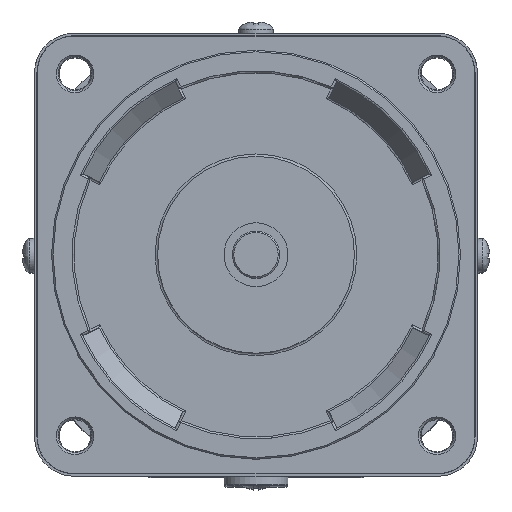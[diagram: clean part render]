
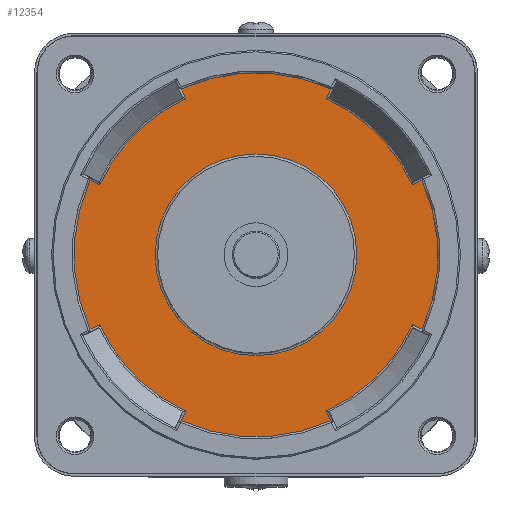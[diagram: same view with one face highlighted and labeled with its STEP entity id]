
A CAD part, top view. The second image highlights one B-rep face of the part: STEP entity #12354.
In plain terms, the highlighted planar face has unit normal (0, 0, 1).
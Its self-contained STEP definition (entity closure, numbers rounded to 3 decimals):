
#94 = ORIENTED_EDGE ( 'NONE', *, *, #12073, .T. ) ;
#155 = VERTEX_POINT ( 'NONE', #7740 ) ;
#420 = ORIENTED_EDGE ( 'NONE', *, *, #2047, .T. ) ;
#493 = EDGE_CURVE ( 'NONE', #2703, #6270, #4771, .T. ) ;
#523 = CARTESIAN_POINT ( 'NONE',  ( 31.725, -14.242, -2. ) ) ;
#566 = VERTEX_POINT ( 'NONE', #8711 ) ;
#876 = EDGE_CURVE ( 'NONE', #6270, #8390, #4746, .T. ) ;
#906 = LINE ( 'NONE', #5708, #14526 ) ;
#970 = CARTESIAN_POINT ( 'NONE',  ( -0.453, 0.211, -2. ) ) ;
#1013 = DIRECTION ( 'NONE',  ( -0.423, 0.906, 0. ) ) ;
#1144 = VERTEX_POINT ( 'NONE', #7782 ) ;
#1166 = VERTEX_POINT ( 'NONE', #10351 ) ;
#1263 = DIRECTION ( 'NONE',  ( 0., 0., 1. ) ) ;
#1277 = AXIS2_PLACEMENT_3D ( 'NONE', #13055, #3937, #11915 ) ;
#1342 = ORIENTED_EDGE ( 'NONE', *, *, #876, .T. ) ;
#1362 = CARTESIAN_POINT ( 'NONE',  ( 0.453, -0.211, -2. ) ) ;
#1589 = CARTESIAN_POINT ( 'NONE',  ( 15.177, -33.73, -2. ) ) ;
#1602 = EDGE_CURVE ( 'NONE', #1144, #6790, #9093, .T. ) ;
#1743 = ORIENTED_EDGE ( 'NONE', *, *, #4513, .T. ) ;
#1824 = AXIS2_PLACEMENT_3D ( 'NONE', #3479, #11231, #9125 ) ;
#1845 = VERTEX_POINT ( 'NONE', #8396 ) ;
#1898 = EDGE_CURVE ( 'NONE', #8390, #11365, #6914, .T. ) ;
#2047 = EDGE_CURVE ( 'NONE', #9904, #1845, #9580, .T. ) ;
#2255 = DIRECTION ( 'NONE',  ( 0.906, 0.423, 0. ) ) ;
#2403 = FACE_BOUND ( 'NONE', #6587, .T. ) ;
#2509 = DIRECTION ( 'NONE',  ( 0., 0., -1. ) ) ;
#2639 = CARTESIAN_POINT ( 'NONE',  ( 14.242, -31.725, -2. ) ) ;
#2703 = VERTEX_POINT ( 'NONE', #12161 ) ;
#2756 = AXIS2_PLACEMENT_3D ( 'NONE', #7173, #2509, #9512 ) ;
#2995 = ORIENTED_EDGE ( 'NONE', *, *, #493, .T. ) ;
#3086 = DIRECTION ( 'NONE',  ( 0., 0., 1. ) ) ;
#3090 = LINE ( 'NONE', #970, #7306 ) ;
#3479 = CARTESIAN_POINT ( 'NONE',  ( 0., 0., -2. ) ) ;
#3489 = VERTEX_POINT ( 'NONE', #523 ) ;
#3665 = DIRECTION ( 'NONE',  ( 1., 0., 0. ) ) ;
#3937 = DIRECTION ( 'NONE',  ( 0., 0., 1. ) ) ;
#4302 = ORIENTED_EDGE ( 'NONE', *, *, #1898, .T. ) ;
#4513 = EDGE_CURVE ( 'NONE', #14709, #2703, #906, .T. ) ;
#4697 = CIRCLE ( 'NONE', #1824, 34.775 ) ;
#4746 = LINE ( 'NONE', #1362, #10082 ) ;
#4749 = CARTESIAN_POINT ( 'NONE',  ( -14.242, 31.725, -2. ) ) ;
#4771 = CIRCLE ( 'NONE', #6458, 34.775 ) ;
#4806 = DIRECTION ( 'NONE',  ( 1., 0., 0. ) ) ;
#4906 = ORIENTED_EDGE ( 'NONE', *, *, #7386, .T. ) ;
#5129 = DIRECTION ( 'NONE',  ( 1., 0., 0. ) ) ;
#5222 = EDGE_CURVE ( 'NONE', #5890, #1144, #7084, .T. ) ;
#5226 = CIRCLE ( 'NONE', #7870, 36.987 ) ;
#5312 = DIRECTION ( 'NONE',  ( 0., 0., 1. ) ) ;
#5425 = ORIENTED_EDGE ( 'NONE', *, *, #9886, .T. ) ;
#5708 = CARTESIAN_POINT ( 'NONE',  ( -31.932, -14.338, -2. ) ) ;
#5720 = ORIENTED_EDGE ( 'NONE', *, *, #8201, .T. ) ;
#5851 = DIRECTION ( 'NONE',  ( 1., 0., 0. ) ) ;
#5890 = VERTEX_POINT ( 'NONE', #11466 ) ;
#6088 = VERTEX_POINT ( 'NONE', #2639 ) ;
#6249 = EDGE_CURVE ( 'NONE', #6790, #8800, #3090, .T. ) ;
#6270 = VERTEX_POINT ( 'NONE', #9317 ) ;
#6438 = DIRECTION ( 'NONE',  ( 1., 0., 0. ) ) ;
#6458 = AXIS2_PLACEMENT_3D ( 'NONE', #7039, #11638, #3665 ) ;
#6536 = DIRECTION ( 'NONE',  ( 1., 0., 0. ) ) ;
#6587 = EDGE_LOOP ( 'NONE', ( #5720 ) ) ;
#6790 = VERTEX_POINT ( 'NONE', #10649 ) ;
#6856 = AXIS2_PLACEMENT_3D ( 'NONE', #8417, #13023, #4806 ) ;
#6879 = VECTOR ( 'NONE', #9640, 1000. ) ;
#6914 = CIRCLE ( 'NONE', #9836, 36.987 ) ;
#6953 = CARTESIAN_POINT ( 'NONE',  ( 0., 0., -2. ) ) ;
#6974 = ORIENTED_EDGE ( 'NONE', *, *, #10753, .T. ) ;
#6977 = PLANE ( 'NONE',  #13136 ) ;
#7039 = CARTESIAN_POINT ( 'NONE',  ( 0., 0., -2. ) ) ;
#7084 = LINE ( 'NONE', #11603, #10169 ) ;
#7157 = DIRECTION ( 'NONE',  ( 0., 0., 1. ) ) ;
#7173 = CARTESIAN_POINT ( 'NONE',  ( 0., 0., -2. ) ) ;
#7295 = VECTOR ( 'NONE', #1013, 1000. ) ;
#7301 = LINE ( 'NONE', #9720, #6879 ) ;
#7306 = VECTOR ( 'NONE', #10088, 1000. ) ;
#7386 = EDGE_CURVE ( 'NONE', #566, #8511, #14809, .T. ) ;
#7740 = CARTESIAN_POINT ( 'NONE',  ( 33.73, -15.177, -2. ) ) ;
#7782 = CARTESIAN_POINT ( 'NONE',  ( 31.725, 14.242, -2. ) ) ;
#7870 = AXIS2_PLACEMENT_3D ( 'NONE', #12189, #14713, #11060 ) ;
#7990 = CARTESIAN_POINT ( 'NONE',  ( -14.338, 31.932, -2. ) ) ;
#8201 = EDGE_CURVE ( 'NONE', #1166, #1166, #8769, .T. ) ;
#8252 = CIRCLE ( 'NONE', #1277, 34.775 ) ;
#8390 = VERTEX_POINT ( 'NONE', #14813 ) ;
#8396 = CARTESIAN_POINT ( 'NONE',  ( -33.73, 15.177, -2. ) ) ;
#8417 = CARTESIAN_POINT ( 'NONE',  ( 0., 0., -2. ) ) ;
#8511 = VERTEX_POINT ( 'NONE', #4749 ) ;
#8711 = CARTESIAN_POINT ( 'NONE',  ( -15.177, 33.73, -2. ) ) ;
#8769 = CIRCLE ( 'NONE', #2756, 20.5 ) ;
#8800 = VERTEX_POINT ( 'NONE', #9618 ) ;
#8951 = CARTESIAN_POINT ( 'NONE',  ( -31.725, 14.242, -2. ) ) ;
#9093 = CIRCLE ( 'NONE', #12217, 34.775 ) ;
#9119 = DIRECTION ( 'NONE',  ( 0.423, -0.906, 0. ) ) ;
#9125 = DIRECTION ( 'NONE',  ( 1., 0., 0. ) ) ;
#9168 = ORIENTED_EDGE ( 'NONE', *, *, #5222, .T. ) ;
#9317 = CARTESIAN_POINT ( 'NONE',  ( -14.242, -31.725, -2. ) ) ;
#9358 = DIRECTION ( 'NONE',  ( -0.906, -0.423, 0. ) ) ;
#9512 = DIRECTION ( 'NONE',  ( 1., 0., 0. ) ) ;
#9580 = LINE ( 'NONE', #11077, #14675 ) ;
#9618 = CARTESIAN_POINT ( 'NONE',  ( 15.177, 33.73, -2. ) ) ;
#9640 = DIRECTION ( 'NONE',  ( 0.906, -0.423, 0. ) ) ;
#9720 = CARTESIAN_POINT ( 'NONE',  ( 0.211, 0.453, -2. ) ) ;
#9836 = AXIS2_PLACEMENT_3D ( 'NONE', #6953, #3086, #6536 ) ;
#9886 = EDGE_CURVE ( 'NONE', #6088, #3489, #8252, .T. ) ;
#9904 = VERTEX_POINT ( 'NONE', #8951 ) ;
#10003 = CIRCLE ( 'NONE', #6856, 36.987 ) ;
#10082 = VECTOR ( 'NONE', #12580, 1000. ) ;
#10088 = DIRECTION ( 'NONE',  ( 0.423, 0.906, 0. ) ) ;
#10169 = VECTOR ( 'NONE', #9358, 1000. ) ;
#10337 = EDGE_LOOP ( 'NONE', ( #11547, #14786, #9168, #13622, #12786, #13955, #4906, #94, #420, #11142, #1743, #2995, #1342, #4302, #6974, #5425 ) ) ;
#10351 = CARTESIAN_POINT ( 'NONE',  ( 20.5, 0., -2. ) ) ;
#10441 = CARTESIAN_POINT ( 'NONE',  ( -33.73, -15.177, -2. ) ) ;
#10456 = CARTESIAN_POINT ( 'NONE',  ( 0., 0., -2. ) ) ;
#10649 = CARTESIAN_POINT ( 'NONE',  ( 14.242, 31.725, -2. ) ) ;
#10703 = AXIS2_PLACEMENT_3D ( 'NONE', #13307, #5312, #6438 ) ;
#10753 = EDGE_CURVE ( 'NONE', #11365, #6088, #12608, .T. ) ;
#11012 = DIRECTION ( 'NONE',  ( -0.906, 0.423, 0. ) ) ;
#11060 = DIRECTION ( 'NONE',  ( 1., 0., 0. ) ) ;
#11077 = CARTESIAN_POINT ( 'NONE',  ( -0.211, -0.453, -2. ) ) ;
#11142 = ORIENTED_EDGE ( 'NONE', *, *, #11691, .T. ) ;
#11231 = DIRECTION ( 'NONE',  ( 0., 0., 1. ) ) ;
#11365 = VERTEX_POINT ( 'NONE', #1589 ) ;
#11466 = CARTESIAN_POINT ( 'NONE',  ( 33.73, 15.177, -2. ) ) ;
#11547 = ORIENTED_EDGE ( 'NONE', *, *, #12963, .T. ) ;
#11603 = CARTESIAN_POINT ( 'NONE',  ( 31.932, 14.338, -2. ) ) ;
#11638 = DIRECTION ( 'NONE',  ( 0., 0., 1. ) ) ;
#11691 = EDGE_CURVE ( 'NONE', #1845, #14709, #13125, .T. ) ;
#11822 = CARTESIAN_POINT ( 'NONE',  ( 0., 0., -2. ) ) ;
#11861 = VECTOR ( 'NONE', #9119, 1000. ) ;
#11915 = DIRECTION ( 'NONE',  ( 1., 0., 0. ) ) ;
#12073 = EDGE_CURVE ( 'NONE', #8511, #9904, #4697, .T. ) ;
#12161 = CARTESIAN_POINT ( 'NONE',  ( -31.725, -14.242, -2. ) ) ;
#12189 = CARTESIAN_POINT ( 'NONE',  ( 0., 0., -2. ) ) ;
#12217 = AXIS2_PLACEMENT_3D ( 'NONE', #11822, #7157, #5129 ) ;
#12354 = ADVANCED_FACE ( 'NONE', ( #13868, #2403 ), #6977, .T. ) ;
#12390 = CARTESIAN_POINT ( 'NONE',  ( 14.338, -31.932, -2. ) ) ;
#12416 = EDGE_CURVE ( 'NONE', #8800, #566, #10003, .T. ) ;
#12580 = DIRECTION ( 'NONE',  ( -0.423, -0.906, 0. ) ) ;
#12608 = LINE ( 'NONE', #12390, #7295 ) ;
#12786 = ORIENTED_EDGE ( 'NONE', *, *, #6249, .T. ) ;
#12963 = EDGE_CURVE ( 'NONE', #3489, #155, #7301, .T. ) ;
#13023 = DIRECTION ( 'NONE',  ( 0., 0., 1. ) ) ;
#13055 = CARTESIAN_POINT ( 'NONE',  ( 0., 0., -2. ) ) ;
#13125 = CIRCLE ( 'NONE', #10703, 36.987 ) ;
#13136 = AXIS2_PLACEMENT_3D ( 'NONE', #10456, #1263, #5851 ) ;
#13307 = CARTESIAN_POINT ( 'NONE',  ( 0., 0., -2. ) ) ;
#13518 = EDGE_CURVE ( 'NONE', #155, #5890, #5226, .T. ) ;
#13622 = ORIENTED_EDGE ( 'NONE', *, *, #1602, .T. ) ;
#13868 = FACE_OUTER_BOUND ( 'NONE', #10337, .T. ) ;
#13955 = ORIENTED_EDGE ( 'NONE', *, *, #12416, .T. ) ;
#14526 = VECTOR ( 'NONE', #2255, 1000. ) ;
#14675 = VECTOR ( 'NONE', #11012, 1000. ) ;
#14709 = VERTEX_POINT ( 'NONE', #10441 ) ;
#14713 = DIRECTION ( 'NONE',  ( 0., 0., 1. ) ) ;
#14786 = ORIENTED_EDGE ( 'NONE', *, *, #13518, .T. ) ;
#14809 = LINE ( 'NONE', #7990, #11861 ) ;
#14813 = CARTESIAN_POINT ( 'NONE',  ( -15.177, -33.73, -2. ) ) ;
